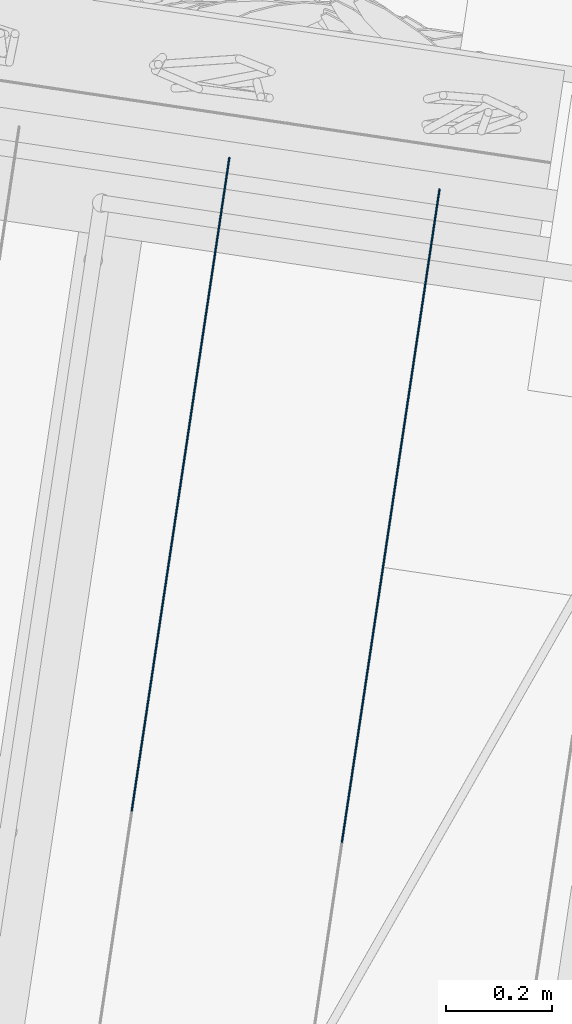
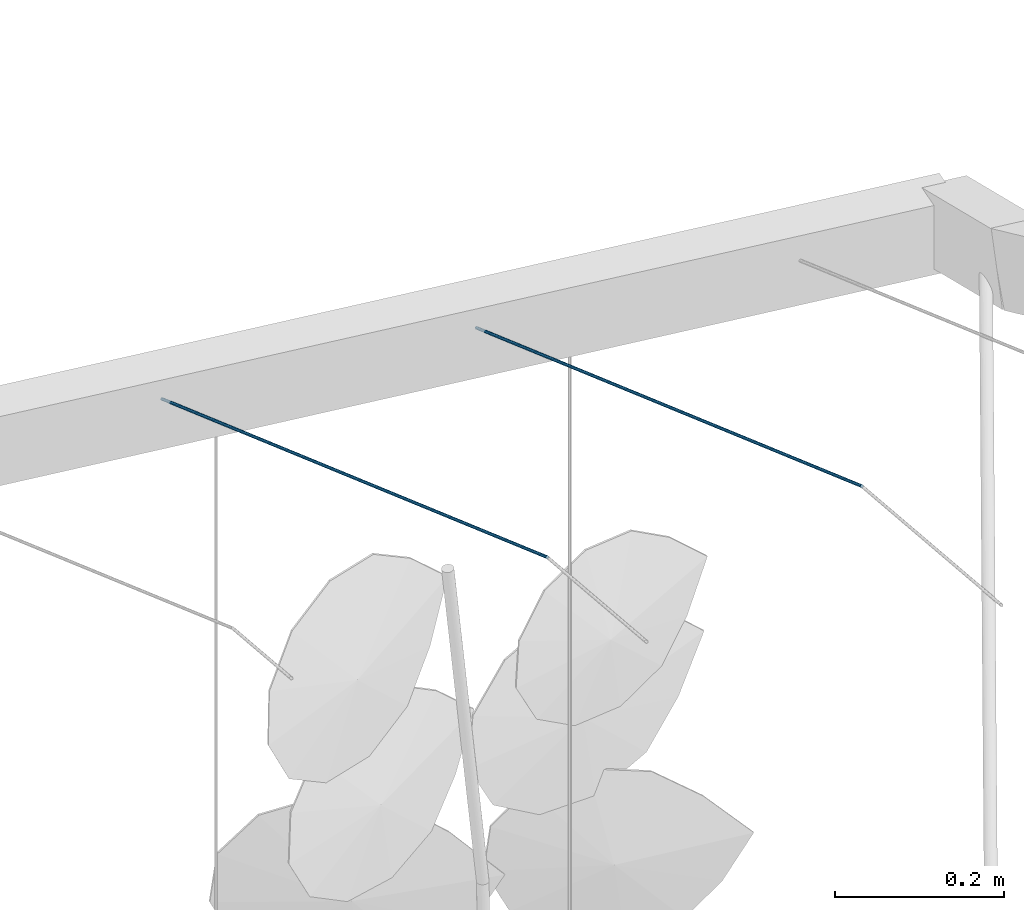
# One storey, part 43 of 142: 2 members, 1 element without a shape of its own.
"""IFC4 building model written with IfcOpenShell, lengths in metres."""

from ifc_helpers import new_model, si_unit, direction, frame, origin_with_axes, place, context, subcontext, project, spatial, circle, extrude, material, material_profile, profile_set, profile_usage, type_object, element, aggregate, save


model = new_model("IFC4")

# Units and contexts
model_context = context("Model", 3, precision=1e-05, world=origin_with_axes(), true_north=direction((0.0, 1.0)))
body_context = subcontext(model_context, "Body", "Model", "MODEL_VIEW")
ifc_project = project(units=[si_unit("AREAUNIT", "SQUARE_METRE"), si_unit("VOLUMEUNIT", "CUBIC_METRE"), si_unit("LENGTHUNIT", "METRE")], contexts=[model_context])

# Site, building, storey
site_placement = place(None, origin_with_axes())
site = spatial("IfcSite", under=ifc_project, at=site_placement, Name="Lares · Rua das Mercês · artigo 4771")
building_placement = place(site_placement, frame((15.0, 9.7, 14.65), z_axis=(0.0, 0.0, 1.0), x_axis=(0.989015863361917, -0.147809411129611, 0.0)))
building = spatial("IfcBuilding", under=site, at=building_placement, Name="Casa Sobreposta")
storey_placement = place(building_placement, origin_with_axes())
storey = spatial("IfcBuildingStorey", under=building, at=storey_placement, Name="00 · Habitação e estacionamento", Elevation=14.65)

# Assembly, members
assembly_placement = place(storey_placement, origin_with_axes())
assembly = element("IfcElementAssembly", 1, at=assembly_placement, inside=storey, Name="Pérgola · prolongamento da estufa 6 m", ObjectType="PERGOLA_GREENHOUSE_EXTENSION", PredefinedType="USERDEFINED")
ifc_material = material(Name="Aço galvanizado / Stahl verzinkt", Category="steel")
ifc_material_profile = material_profile(ifc_material, circle(Radius=0.002))
ifc_profile_set = profile_set([ifc_material_profile], Name="D0.004")
ifc_profile_usage_1 = profile_usage(ifc_profile_set)
member_type = type_object("IfcMemberType", Name="D0.004 / galvanized", PredefinedType="NOTDEFINED", material=ifc_profile_set)
member_1_placement = place(assembly_placement, frame((-0.999999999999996, 5.15650506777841, 6.8157371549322), z_axis=(0.0, 0.905864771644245, -0.423567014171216), x_axis=(1.0, 0.0, 0.0)))
member_1 = element("IfcMember", 2, at=member_1_placement, type_object=member_type, material=ifc_profile_usage_1, Name="Pérgola · fio para trepadeiras", context=body_context, shape_type="SweptSolid", body=[
    extrude(circle(Radius=0.002), origin_with_axes(), (0.0, 0.0, 1.0), 1.3727158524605),
])
ifc_profile_usage_2 = profile_usage(ifc_profile_set)
member_2_placement = place(assembly_placement, frame((-0.599999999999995, 5.15650506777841, 6.8157371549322), z_axis=(0.0, 0.905864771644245, -0.423567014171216), x_axis=(1.0, 0.0, 0.0)))
member_2 = element("IfcMember", 3, at=member_2_placement, type_object=member_type, material=ifc_profile_usage_2, Name="Pérgola · fio para trepadeiras", context=body_context, shape_type="SweptSolid", body=[
    extrude(circle(Radius=0.002), origin_with_axes(), (0.0, 0.0, 1.0), 1.3727158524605),
])
aggregate(assembly, [member_1, member_2])

save(model, "model.ifc")
